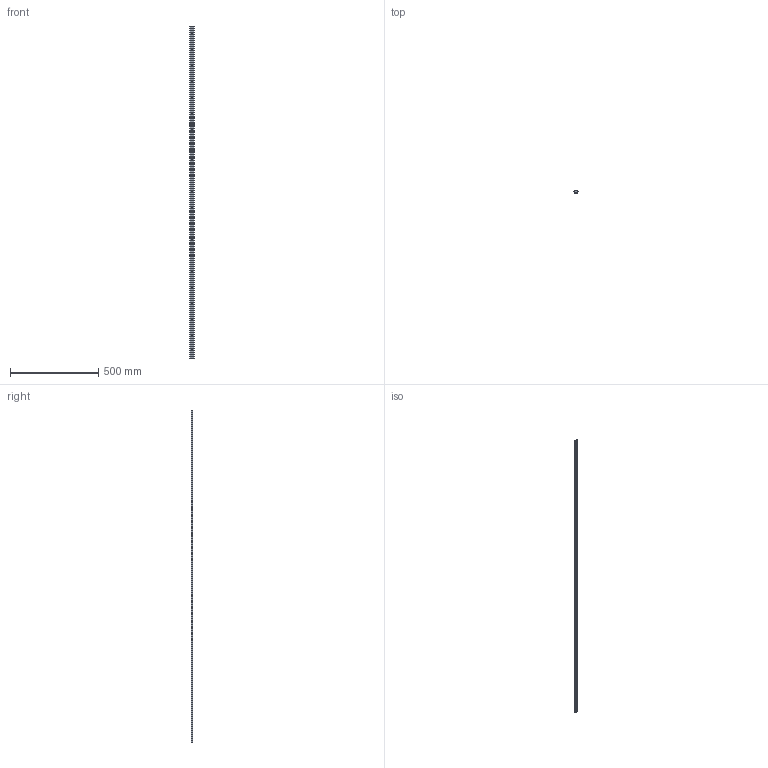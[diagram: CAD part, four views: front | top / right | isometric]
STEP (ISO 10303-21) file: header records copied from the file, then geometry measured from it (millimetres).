
FILE_DESCRIPTION(('STEP AP203'),'1');
FILE_NAME('slide_nv28l1886p1.stp','2022-07-01T04:25:05',('TraceParts'),('TraceParts S.A.'),'Spatial InterOp 3D',' ',' ');
FILE_SCHEMA(('CONFIG_CONTROL_DESIGN'));
Length unit declared in the file: millimetre
Products named in the file (1): 1
Bounding box: 27.63 x 10 x 1886 mm (x, y, z)
Volume: 377533 mm3; surface area: 145484.4 mm2
Topology: 1 solids, 1 shells, 133 faces, 330 edges, 220 vertices
Faces by surface type: cylinder 96, plane 37
Entity records: 4184 total; most frequent: DIRECTION 790, CARTESIAN_POINT 684, ORIENTED_EDGE 660, EDGE_CURVE 330, AXIS2_PLACEMENT_3D 326, VERTEX_POINT 220, EDGE_LOOP 196, CIRCLE 192
